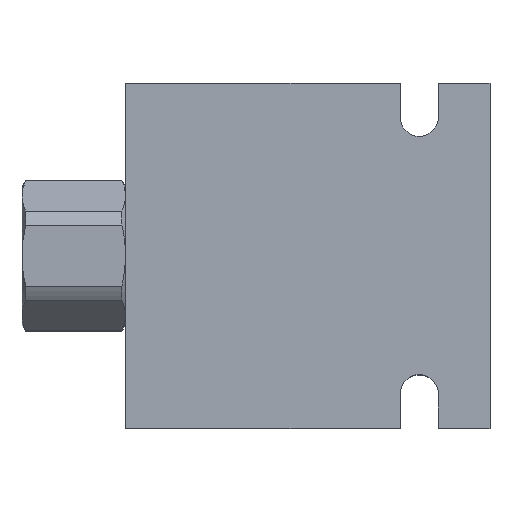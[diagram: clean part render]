
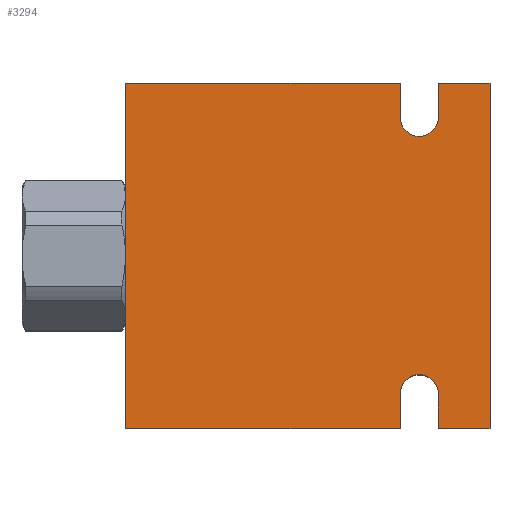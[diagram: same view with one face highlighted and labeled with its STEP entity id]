
A CAD part, top view. The second image highlights one B-rep face of the part: STEP entity #3294.
In plain terms, the highlighted planar face has unit normal (0, 0, 1).
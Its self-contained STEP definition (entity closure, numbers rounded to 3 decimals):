
#61=LINE('',#6432,#172);
#65=LINE('',#6537,#176);
#68=LINE('',#6573,#179);
#70=LINE('',#6662,#181);
#71=LINE('',#6666,#182);
#72=LINE('',#6668,#183);
#73=LINE('',#6670,#184);
#74=LINE('',#6671,#185);
#75=LINE('',#6675,#186);
#76=LINE('',#6677,#187);
#172=VECTOR('',#5115,1000.);
#176=VECTOR('',#5127,1000.);
#179=VECTOR('',#5134,1000.);
#181=VECTOR('',#5140,1000.);
#182=VECTOR('',#5143,1000.);
#183=VECTOR('',#5144,1000.);
#184=VECTOR('',#5145,1000.);
#185=VECTOR('',#5146,1000.);
#186=VECTOR('',#5149,1000.);
#187=VECTOR('',#5150,1000.);
#531=PLANE('',#4555);
#1014=ORIENTED_EDGE('',*,*,#1701,.F.);
#1015=ORIENTED_EDGE('',*,*,#1732,.F.);
#1016=ORIENTED_EDGE('',*,*,#1733,.F.);
#1017=ORIENTED_EDGE('',*,*,#1734,.F.);
#1018=ORIENTED_EDGE('',*,*,#1735,.F.);
#1019=ORIENTED_EDGE('',*,*,#1736,.F.);
#1020=ORIENTED_EDGE('',*,*,#1688,.F.);
#1021=ORIENTED_EDGE('',*,*,#1737,.T.);
#1022=ORIENTED_EDGE('',*,*,#1738,.T.);
#1023=ORIENTED_EDGE('',*,*,#1739,.T.);
#1024=ORIENTED_EDGE('',*,*,#1740,.F.);
#1025=ORIENTED_EDGE('',*,*,#1651,.F.);
#1651=EDGE_CURVE('',#2617,#2618,#61,.T.);
#1688=EDGE_CURVE('',#2654,#2655,#65,.T.);
#1701=EDGE_CURVE('',#2666,#2617,#68,.T.);
#1732=EDGE_CURVE('',#2697,#2666,#70,.T.);
#1733=EDGE_CURVE('',#2698,#2697,#2015,.T.);
#1734=EDGE_CURVE('',#2699,#2698,#71,.T.);
#1735=EDGE_CURVE('',#2700,#2699,#72,.T.);
#1736=EDGE_CURVE('',#2655,#2700,#73,.T.);
#1737=EDGE_CURVE('',#2654,#2701,#74,.T.);
#1738=EDGE_CURVE('',#2701,#2702,#2016,.T.);
#1739=EDGE_CURVE('',#2702,#2703,#75,.T.);
#1740=EDGE_CURVE('',#2618,#2703,#76,.T.);
#2015=CIRCLE('',#4556,3.5);
#2016=CIRCLE('',#4557,3.5);
#2245=EDGE_LOOP('',(#1014,#1015,#1016,#1017,#1018,#1019,#1020,#1021,#1022,
#1023,#1024,#1025));
#2617=VERTEX_POINT('',#6431);
#2618=VERTEX_POINT('',#6433);
#2654=VERTEX_POINT('',#6536);
#2655=VERTEX_POINT('',#6538);
#2666=VERTEX_POINT('',#6571);
#2697=VERTEX_POINT('',#6663);
#2698=VERTEX_POINT('',#6665);
#2699=VERTEX_POINT('',#6667);
#2700=VERTEX_POINT('',#6669);
#2701=VERTEX_POINT('',#6672);
#2702=VERTEX_POINT('',#6674);
#2703=VERTEX_POINT('',#6676);
#3012=FACE_BOUND('',#2245,.T.);
#3294=ADVANCED_FACE('',(#3012),#531,.F.);
#4555=AXIS2_PLACEMENT_3D('',#6661,#5138,#5139);
#4556=AXIS2_PLACEMENT_3D('',#6664,#5141,#5142);
#4557=AXIS2_PLACEMENT_3D('',#6673,#5147,#5148);
#5115=DIRECTION('',(0.,1.,0.));
#5127=DIRECTION('',(1.,0.,0.));
#5134=DIRECTION('',(-1.,0.,0.));
#5138=DIRECTION('',(0.,0.,-1.));
#5139=DIRECTION('',(-1.,0.,0.));
#5140=DIRECTION('',(0.,-1.,0.));
#5141=DIRECTION('',(0.,0.,1.));
#5142=DIRECTION('',(1.,0.,0.));
#5143=DIRECTION('',(0.,1.,0.));
#5144=DIRECTION('',(-1.,0.,0.));
#5145=DIRECTION('',(0.,-1.,0.));
#5146=DIRECTION('',(0.,-1.,0.));
#5147=DIRECTION('',(0.,0.,-1.));
#5148=DIRECTION('',(1.,0.,0.));
#5149=DIRECTION('',(0.,1.,0.));
#5150=DIRECTION('',(1.,0.,0.));
#6431=CARTESIAN_POINT('',(-33.5,-31.75,38.1));
#6432=CARTESIAN_POINT('',(-33.5,-31.75,38.1));
#6433=CARTESIAN_POINT('',(-33.5,31.75,38.1));
#6536=CARTESIAN_POINT('',(-17.,31.75,38.1));
#6537=CARTESIAN_POINT('',(-33.5,31.75,38.1));
#6538=CARTESIAN_POINT('',(33.5,31.75,38.1));
#6571=CARTESIAN_POINT('',(-24.,-31.75,38.1));
#6573=CARTESIAN_POINT('',(33.5,-31.75,38.1));
#6661=CARTESIAN_POINT('',(0.,0.,38.1));
#6662=CARTESIAN_POINT('',(-24.,-25.45,38.1));
#6663=CARTESIAN_POINT('',(-24.,-25.45,38.1));
#6664=CARTESIAN_POINT('',(-20.5,-25.45,38.1));
#6665=CARTESIAN_POINT('',(-17.,-25.45,38.1));
#6666=CARTESIAN_POINT('',(-17.,-25.45,38.1));
#6667=CARTESIAN_POINT('',(-17.,-31.75,38.1));
#6668=CARTESIAN_POINT('',(33.5,-31.75,38.1));
#6669=CARTESIAN_POINT('',(33.5,-31.75,38.1));
#6670=CARTESIAN_POINT('',(33.5,31.75,38.1));
#6671=CARTESIAN_POINT('',(-17.,25.35,38.1));
#6672=CARTESIAN_POINT('',(-17.,25.35,38.1));
#6673=CARTESIAN_POINT('',(-20.5,25.35,38.1));
#6674=CARTESIAN_POINT('',(-24.,25.35,38.1));
#6675=CARTESIAN_POINT('',(-24.,25.35,38.1));
#6676=CARTESIAN_POINT('',(-24.,31.75,38.1));
#6677=CARTESIAN_POINT('',(-33.5,31.75,38.1));
